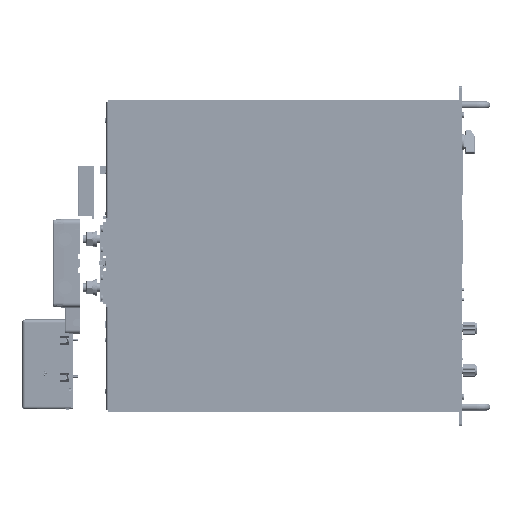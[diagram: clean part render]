
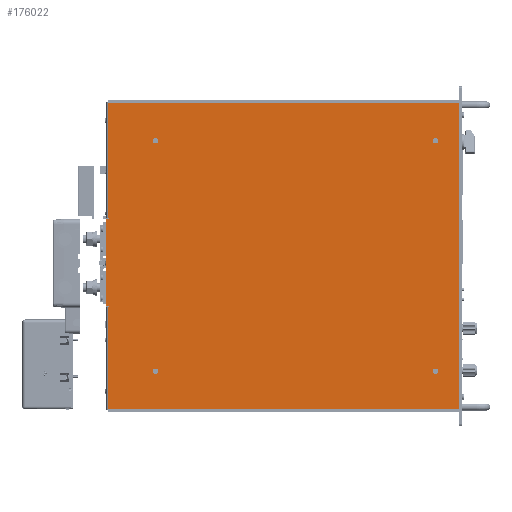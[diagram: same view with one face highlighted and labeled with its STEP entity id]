
A CAD part, front view. The second image highlights one B-rep face of the part: STEP entity #176022.
In plain terms, the highlighted planar face has unit normal (0, -1, 0).
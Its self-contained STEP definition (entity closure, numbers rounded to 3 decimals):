
#6766=FACE_BOUND('',#27942,.T.);
#6767=FACE_BOUND('',#27943,.T.);
#6768=FACE_BOUND('',#27944,.T.);
#6769=FACE_BOUND('',#27945,.T.);
#9742=PLANE('',#186226);
#18178=FACE_OUTER_BOUND('',#27941,.T.);
#27941=EDGE_LOOP('',(#128600,#128601,#128602,#128603,#128604,#128605,#128606,
#128607,#128608,#128609,#128610,#128611));
#27942=EDGE_LOOP('',(#128612));
#27943=EDGE_LOOP('',(#128613));
#27944=EDGE_LOOP('',(#128614));
#27945=EDGE_LOOP('',(#128615));
#40536=LINE('',#263299,#56319);
#40552=LINE('',#263347,#56335);
#40579=LINE('',#263416,#56362);
#40582=LINE('',#263422,#56365);
#40583=LINE('',#263424,#56366);
#40584=LINE('',#263425,#56367);
#40585=LINE('',#263427,#56368);
#40586=LINE('',#263429,#56369);
#40587=LINE('',#263431,#56370);
#40588=LINE('',#263433,#56371);
#40589=LINE('',#263435,#56372);
#40590=LINE('',#263436,#56373);
#56319=VECTOR('',#207273,10.);
#56335=VECTOR('',#207307,10.);
#56362=VECTOR('',#207354,10.);
#56365=VECTOR('',#207359,10.);
#56366=VECTOR('',#207360,10.);
#56367=VECTOR('',#207361,10.);
#56368=VECTOR('',#207362,10.);
#56369=VECTOR('',#207363,10.);
#56370=VECTOR('',#207364,10.);
#56371=VECTOR('',#207365,10.);
#56372=VECTOR('',#207366,10.);
#56373=VECTOR('',#207367,10.);
#68201=CIRCLE('',#186227,3.85);
#68202=CIRCLE('',#186228,3.85);
#68203=CIRCLE('',#186229,3.85);
#68204=CIRCLE('',#186230,3.85);
#76481=VERTEX_POINT('',#263258);
#76486=VERTEX_POINT('',#263269);
#76497=VERTEX_POINT('',#263298);
#76510=VERTEX_POINT('',#263346);
#76532=VERTEX_POINT('',#263415);
#76534=VERTEX_POINT('',#263421);
#76535=VERTEX_POINT('',#263423);
#76536=VERTEX_POINT('',#263426);
#76537=VERTEX_POINT('',#263428);
#76538=VERTEX_POINT('',#263430);
#76539=VERTEX_POINT('',#263432);
#76540=VERTEX_POINT('',#263434);
#76541=VERTEX_POINT('',#263437);
#76542=VERTEX_POINT('',#263439);
#76543=VERTEX_POINT('',#263441);
#76544=VERTEX_POINT('',#263443);
#95556=EDGE_CURVE('',#76497,#76481,#40536,.T.);
#95575=EDGE_CURVE('',#76510,#76486,#40552,.T.);
#95605=EDGE_CURVE('',#76532,#76510,#40579,.T.);
#95608=EDGE_CURVE('',#76486,#76534,#40582,.T.);
#95609=EDGE_CURVE('',#76534,#76535,#40583,.T.);
#95610=EDGE_CURVE('',#76535,#76497,#40584,.T.);
#95611=EDGE_CURVE('',#76481,#76536,#40585,.T.);
#95612=EDGE_CURVE('',#76536,#76537,#40586,.T.);
#95613=EDGE_CURVE('',#76537,#76538,#40587,.T.);
#95614=EDGE_CURVE('',#76538,#76539,#40588,.T.);
#95615=EDGE_CURVE('',#76539,#76540,#40589,.T.);
#95616=EDGE_CURVE('',#76540,#76532,#40590,.T.);
#95617=EDGE_CURVE('',#76541,#76541,#68201,.T.);
#95618=EDGE_CURVE('',#76542,#76542,#68202,.T.);
#95619=EDGE_CURVE('',#76543,#76543,#68203,.T.);
#95620=EDGE_CURVE('',#76544,#76544,#68204,.T.);
#128600=ORIENTED_EDGE('',*,*,#95575,.T.);
#128601=ORIENTED_EDGE('',*,*,#95608,.T.);
#128602=ORIENTED_EDGE('',*,*,#95609,.T.);
#128603=ORIENTED_EDGE('',*,*,#95610,.T.);
#128604=ORIENTED_EDGE('',*,*,#95556,.T.);
#128605=ORIENTED_EDGE('',*,*,#95611,.T.);
#128606=ORIENTED_EDGE('',*,*,#95612,.T.);
#128607=ORIENTED_EDGE('',*,*,#95613,.T.);
#128608=ORIENTED_EDGE('',*,*,#95614,.T.);
#128609=ORIENTED_EDGE('',*,*,#95615,.T.);
#128610=ORIENTED_EDGE('',*,*,#95616,.T.);
#128611=ORIENTED_EDGE('',*,*,#95605,.T.);
#128612=ORIENTED_EDGE('',*,*,#95617,.T.);
#128613=ORIENTED_EDGE('',*,*,#95618,.T.);
#128614=ORIENTED_EDGE('',*,*,#95619,.T.);
#128615=ORIENTED_EDGE('',*,*,#95620,.T.);
#176022=ADVANCED_FACE('',(#18178,#6766,#6767,#6768,#6769),#9742,.F.);
#186226=AXIS2_PLACEMENT_3D('',#263420,#207357,#207358);
#186227=AXIS2_PLACEMENT_3D('',#263438,#207368,#207369);
#186228=AXIS2_PLACEMENT_3D('',#263440,#207370,#207371);
#186229=AXIS2_PLACEMENT_3D('',#263442,#207372,#207373);
#186230=AXIS2_PLACEMENT_3D('',#263444,#207374,#207375);
#207273=DIRECTION('',(0.,0.,-1.));
#207307=DIRECTION('',(0.,0.,-1.));
#207354=DIRECTION('',(-1.,0.,0.));
#207357=DIRECTION('center_axis',(0.,1.,0.));
#207358=DIRECTION('ref_axis',(0.,0.,
-1.));
#207359=DIRECTION('',(1.,0.,0.));
#207360=DIRECTION('',(0.,0.,1.));
#207361=DIRECTION('',(-1.,0.,0.));
#207362=DIRECTION('',(1.,0.,0.));
#207363=DIRECTION('',(0.,0.,-1.));
#207364=DIRECTION('',(-1.,0.,0.));
#207365=DIRECTION('',(0.,0.,-1.));
#207366=DIRECTION('',(1.,0.,0.));
#207367=DIRECTION('',(0.,0.,-1.));
#207368=DIRECTION('center_axis',(0.,1.,0.));
#207369=DIRECTION('ref_axis',(0.,0.,
1.));
#207370=DIRECTION('center_axis',(0.,1.,0.));
#207371=DIRECTION('ref_axis',(0.,0.,
1.));
#207372=DIRECTION('center_axis',(0.,1.,0.));
#207373=DIRECTION('ref_axis',(0.,0.,
1.));
#207374=DIRECTION('center_axis',(0.,1.,0.));
#207375=DIRECTION('ref_axis',(0.,0.,
1.));
#263258=CARTESIAN_POINT('',(-503.,2.,54.3));
#263269=CARTESIAN_POINT('',(-503.,2.,-219.));
#263298=CARTESIAN_POINT('',(-503.,2.,219.));
#263299=CARTESIAN_POINT('',(-503.,2.,109.5));
#263346=CARTESIAN_POINT('',(-503.,2.,-73.));
#263347=CARTESIAN_POINT('',(-503.,2.,-36.5));
#263415=CARTESIAN_POINT('',(-502.5,2.,-73.));
#263416=CARTESIAN_POINT('',(-378.375,2.,-73.));
#263420=CARTESIAN_POINT('Origin',(-254.25,2.,0.));
#263421=CARTESIAN_POINT('',(-2.5,2.,-219.));
#263422=CARTESIAN_POINT('',(-506.,2.,-219.));
#263423=CARTESIAN_POINT('',(-2.5,2.,219.));
#263424=CARTESIAN_POINT('',(-2.5,2.,-219.));
#263425=CARTESIAN_POINT('',(-2.5,2.,219.));
#263426=CARTESIAN_POINT('',(-502.5,2.,54.3));
#263427=CARTESIAN_POINT('',(-380.125,2.,54.3));
#263428=CARTESIAN_POINT('',(-502.5,2.,52.));
#263429=CARTESIAN_POINT('',(-502.5,2.,27.15));
#263430=CARTESIAN_POINT('',(-506.,2.,52.));
#263431=CARTESIAN_POINT('',(-378.375,2.,52.));
#263432=CARTESIAN_POINT('',(-506.,2.,-70.7));
#263433=CARTESIAN_POINT('',(-506.,2.,219.));
#263434=CARTESIAN_POINT('',(-502.5,2.,-70.7));
#263435=CARTESIAN_POINT('',(-380.125,2.,-70.7));
#263436=CARTESIAN_POINT('',(-502.5,2.,-35.35));
#263437=CARTESIAN_POINT('',(-436.,2.,160.15));
#263438=CARTESIAN_POINT('Origin',(-436.,2.,164.));
#263439=CARTESIAN_POINT('',(-436.,2.,-167.85));
#263440=CARTESIAN_POINT('Origin',(-436.,2.,-164.));
#263441=CARTESIAN_POINT('',(-37.5,2.,-167.85));
#263442=CARTESIAN_POINT('Origin',(-37.5,2.,-164.));
#263443=CARTESIAN_POINT('',(-37.5,2.,160.15));
#263444=CARTESIAN_POINT('Origin',(-37.5,2.,164.));
